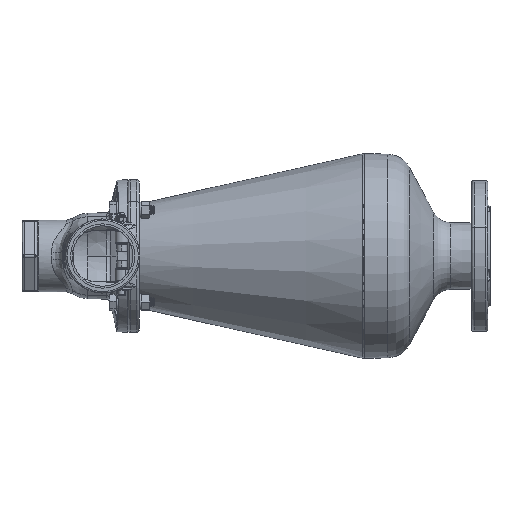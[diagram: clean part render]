
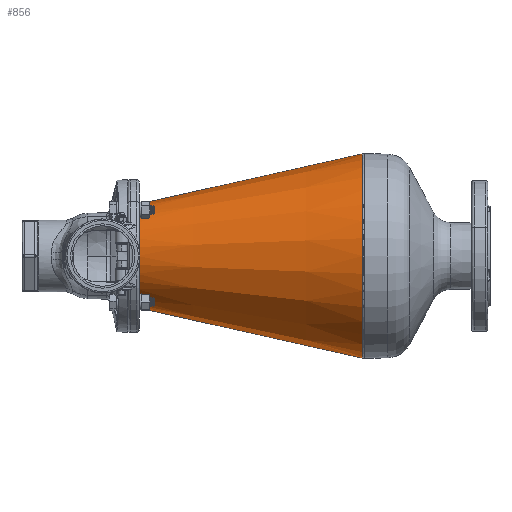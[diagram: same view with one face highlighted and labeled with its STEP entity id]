
A CAD part, left-side view. The second image highlights one B-rep face of the part: STEP entity #856.
In plain terms, the highlighted conical face has half-angle 12.68 degrees and reference radius 68.1 mm.
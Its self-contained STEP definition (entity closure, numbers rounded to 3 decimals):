
#856 = ADVANCED_FACE ( 'NONE', ( #26861 ), #26873, .T. ) ;
#5883 = LINE ( 'NONE', #15830, #5884 ) ;
#5884 = VECTOR ( 'NONE', #15831, 1000. ) ;
#9938 = EDGE_CURVE ( 'NONE', #25845, #25892, #11936, .T. ) ;
#9939 = EDGE_CURVE ( 'NONE', #25920, #25752, #11930, .T. ) ;
#9943 = EDGE_CURVE ( 'NONE', #25845, #25920, #11944, .T. ) ;
#10825 = CARTESIAN_POINT ( 'NONE',  ( 0., -12., 0. ) ) ;
#10826 = DIRECTION ( 'NONE',  ( 0., -1., 0. ) ) ;
#10827 = DIRECTION ( 'NONE',  ( 0., 0., -1. ) ) ;
#10829 = CARTESIAN_POINT ( 'NONE',  ( 0., -309.905, 0. ) ) ;
#10830 = DIRECTION ( 'NONE',  ( 0., -1., 0. ) ) ;
#10831 = DIRECTION ( 'NONE',  ( 0., 0., -1. ) ) ;
#10833 = CARTESIAN_POINT ( 'NONE',  ( 0., -12., 68.1 ) ) ;
#10834 = DIRECTION ( 'NONE',  ( 0., -0.976, 0.22 ) ) ;
#11930 = CIRCLE ( 'NONE', #17197, 135.129 ) ;
#11936 = CIRCLE ( 'NONE', #17196, 68.1 ) ;
#11944 = LINE ( 'NONE', #10833, #11946 ) ;
#11946 = VECTOR ( 'NONE', #10834, 1000. ) ;
#15830 = CARTESIAN_POINT ( 'NONE',  ( 0., -12., -68.1 ) ) ;
#15831 = DIRECTION ( 'NONE',  ( 0., -0.976, -0.22 ) ) ;
#16398 = AXIS2_PLACEMENT_3D ( 'NONE', #22220, #21797, #21849 ) ;
#17196 = AXIS2_PLACEMENT_3D ( 'NONE', #10825, #10826, #10827 ) ;
#17197 = AXIS2_PLACEMENT_3D ( 'NONE', #10829, #10830, #10831 ) ;
#21797 = DIRECTION ( 'NONE',  ( 0., -1., 0. ) ) ;
#21849 = DIRECTION ( 'NONE',  ( 0., 0., -1. ) ) ;
#22220 = CARTESIAN_POINT ( 'NONE',  ( 0., -12., 0. ) ) ;
#25752 = VERTEX_POINT ( 'NONE', #29958 ) ;
#25845 = VERTEX_POINT ( 'NONE', #30019 ) ;
#25892 = VERTEX_POINT ( 'NONE', #30066 ) ;
#25920 = VERTEX_POINT ( 'NONE', #30094 ) ;
#26861 = FACE_OUTER_BOUND ( 'NONE', #28695, .T. ) ;
#26873 = CONICAL_SURFACE ( 'NONE', #16398, 68.1, 0.221 ) ;
#27874 = ORIENTED_EDGE ( 'NONE', *, *, #9938, .T. ) ;
#27876 = ORIENTED_EDGE ( 'NONE', *, *, #29521, .T. ) ;
#27880 = ORIENTED_EDGE ( 'NONE', *, *, #9943, .F. ) ;
#28241 = ORIENTED_EDGE ( 'NONE', *, *, #9939, .F. ) ;
#28695 = EDGE_LOOP ( 'NONE', ( #27880, #27874, #27876, #28241 ) ) ;
#29521 = EDGE_CURVE ( 'NONE', #25892, #25752, #5883, .T. ) ;
#29958 = CARTESIAN_POINT ( 'NONE',  ( 0., -309.905, -135.129 ) ) ;
#30019 = CARTESIAN_POINT ( 'NONE',  ( 0., -12., 68.1 ) ) ;
#30066 = CARTESIAN_POINT ( 'NONE',  ( 0., -12., -68.1 ) ) ;
#30094 = CARTESIAN_POINT ( 'NONE',  ( 0., -309.905, 135.129 ) ) ;
